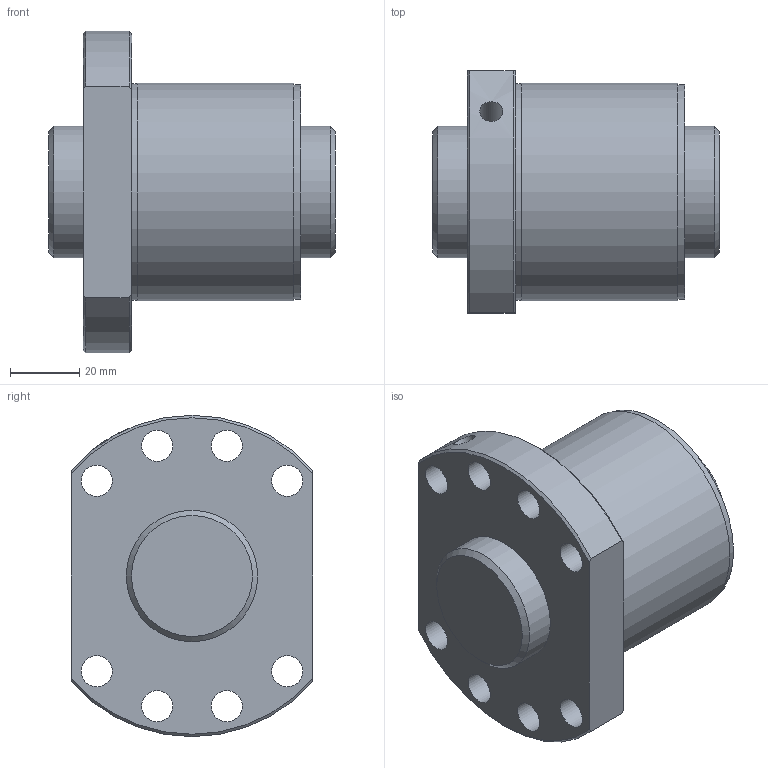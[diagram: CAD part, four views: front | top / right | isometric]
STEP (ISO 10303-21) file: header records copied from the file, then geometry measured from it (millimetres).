
FILE_DESCRIPTION(/* description */ ('STEP AP203'),/* implementation_level */ '2;1');
FILE_NAME(/* name */ 'SDA3810V-5G0+83LC0(0G000)',/* time_stamp */ '2024-05-28T11:33:29+02:00',/* author */ ('License CC BY-ND 4.0'),/* organization */ ('CADENAS'),/* preprocessor_version */ 'ST-DEVELOPER v19.3',/* originating_system */ 'PARTsolutions',/* authorisation */ ' ');
FILE_SCHEMA (('CONFIG_CONTROL_DESIGN'));
Length unit declared in the file: millimetre
Products named in the file (3): SDA3810V-5G0+83LC0(0G000); 000SDA3810V-50Shaft; SDA-V serieSDA3810V-5nut
Assembly tree (2 placements, depth 2):
  SDA3810V-5G0+83LC0(0G000)
    000SDA3810V-50Shaft
    SDA-V serieSDA3810V-5nut
Bounding box: 83 x 70 x 93 mm (x, y, z)
Volume: 248450.9 mm3; surface area: 45076.8 mm2
Topology: 2 solids, 2 shells, 33 faces, 75 edges, 49 vertices
Faces by surface type: cylinder 17, plane 9, cone 7
Full cylindrical faces by diameter (mm): 5.2 x1, 6.647 x1, 9 x8, 38 x2, 62 x1, 62.6 x1, 63 x1
Entity records: 983 total; most frequent: CARTESIAN_POINT 184, DIRECTION 156, ORIENTED_EDGE 112, EDGE_LOOP 74, FACE_BOUND 74, AXIS2_PLACEMENT_3D 74, EDGE_CURVE 56, VERTEX_POINT 48
